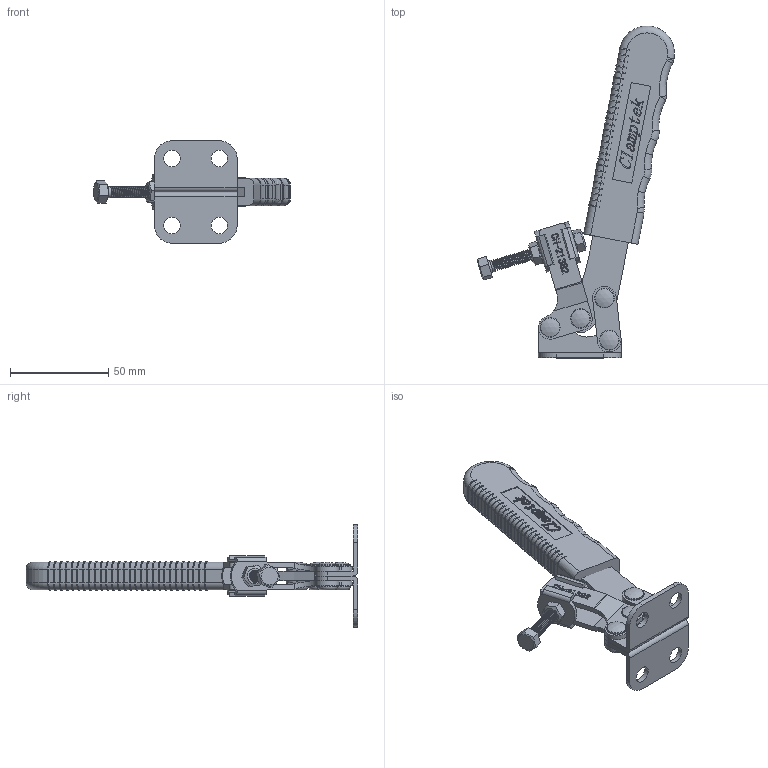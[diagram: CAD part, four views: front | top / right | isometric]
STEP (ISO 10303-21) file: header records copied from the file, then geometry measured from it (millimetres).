
FILE_DESCRIPTION(/* description */ ('STEP AP203'),/* implementation_level */ '2;1');
FILE_NAME(/* name */ 'E:\STRONA\Horizontal toggle clamp\CH-21382\CH-21382_OTWARTY.stp',/* time_stamp */ '2019-01-14T14:02:51+01:00',/* author */ ('Admin'),/* organization */ ('Î¢ÈíÖÐ¹ú'),/* preprocessor_version */ 'ST-DEVELOPER v17.2',/* originating_system */ 'Autodesk Inventor 2019',/* authorisation */ '');
FILE_SCHEMA (('AUTOMOTIVE_DESIGN { 1 0 10303 214 3 1 1 }'));
Products named in the file (10): CH-21382_OTWARTY; 065010; M6; FW516; 21382-01; 21382-02; 21382-03; 21382-04; 21382-06; 21382-05
Assembly tree (15 placements, depth 2):
  CH-21382_OTWARTY
    065010
    21382-04  x2
    21382-06  x4
    FW516  x2
    M6  x2
    21382-01
    21382-02
    21382-03
    21382-05
Bounding box: 100.03 x 168.52 x 52 mm (x, y, z)
Volume: 61550.7 mm3; surface area: 36794.4 mm2
Topology: 17 solids, 17 shells, 1334 faces, 3534 edges, 2289 vertices
Faces by surface type: plane 581, bspline 360, cylinder 256, torus 93, cone 34, sphere 10
Full cylindrical faces by diameter (mm): 3 x1, 4 x1, 4.8 x10, 5 x4, 6 x1, 6.3 x4, 6.4 x14, 8.1 x2, 8.5 x4, 10 x8
Entity records: 63246 total; most frequent: CARTESIAN_POINT 33577, ORIENTED_EDGE 6548, DIRECTION 4869, EDGE_CURVE 3274, VERTEX_POINT 2112, LINE 1919, VECTOR 1919, AXIS2_PLACEMENT_3D 1475
